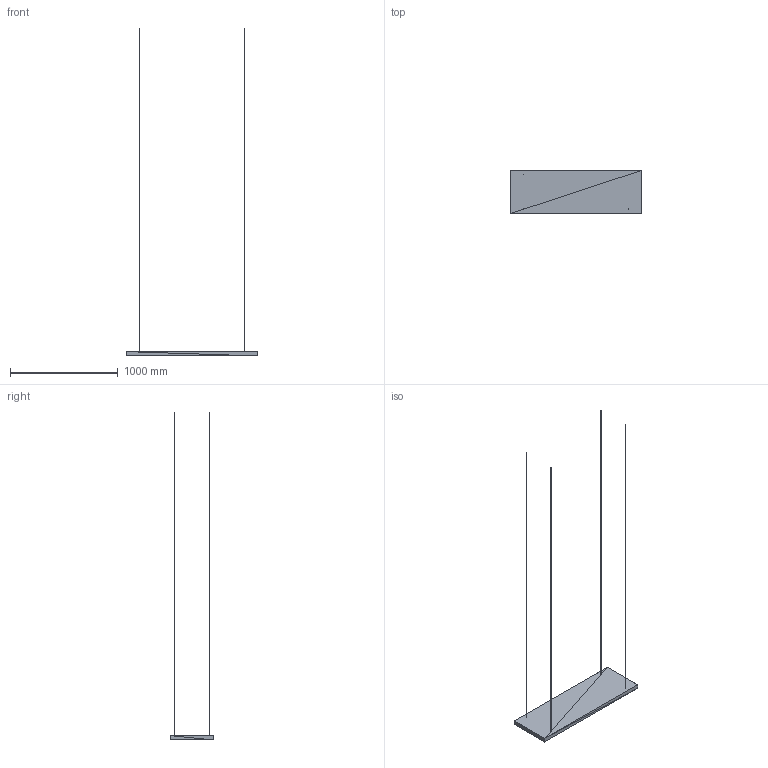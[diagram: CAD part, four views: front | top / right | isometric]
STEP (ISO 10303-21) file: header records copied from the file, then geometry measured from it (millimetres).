
FILE_DESCRIPTION(('ISINAC STEP AP214'),'2;1');
FILE_NAME('ISINAC_R.1220.400_40mm_COLGADO','2026-05-03T10:49:19',('ISINAC'),('www.isinac.com'),'ISINAC BIM Generator 1.0','','');
FILE_SCHEMA(('AUTOMOTIVE_DESIGN'));
Length unit declared in the file: millimetre
Products named in the file (1): ISINAC_R.1220.400_40mm_COLGADO
Bounding box: 1220 x 400 x 3040 mm (x, y, z)
Surface area: 1213646 mm2 (no closed solid volume)
Topology: 0 solids, 92 shells, 92 faces, 276 edges, 276 vertices
Faces by surface type: plane 92
Entity records: 1025 total; most frequent: CARTESIAN_POINT 368, DIRECTION 184, POLY_LOOP 92, FACE_OUTER_BOUND 92, AXIS2_PLACEMENT_3D 92, PLANE 92, FACE_SURFACE 92, CLOSED_SHELL 1
